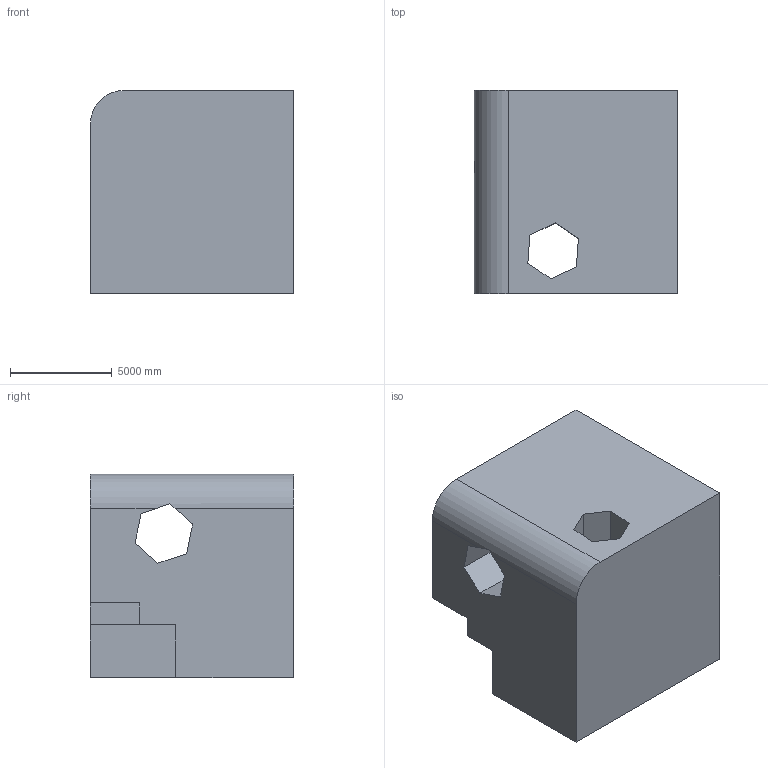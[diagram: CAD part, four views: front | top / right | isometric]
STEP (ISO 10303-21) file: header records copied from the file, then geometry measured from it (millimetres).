
FILE_DESCRIPTION (( 'STEP AP203' ), '1' );
FILE_NAME ('460.STEP', '2022-07-29T11:22:18', ( 'user' ), ( '' ), 'SwSTEP 2.0', 'SolidWorks 2021', '' );
FILE_SCHEMA (( 'CONFIG_CONTROL_DESIGN' ));
Length unit declared in the file: centimetre
Products named in the file (1): 460
Bounding box: 10000 x 10000 x 10000 mm (x, y, z)
Volume: 847393563423.6 mm3; surface area: 742650213.7 mm2
Topology: 1 solids, 1 shells, 25 faces, 72 edges, 48 vertices
Faces by surface type: plane 24, cylinder 1
Entity records: 893 total; most frequent: CARTESIAN_POINT 152, ORIENTED_EDGE 144, DIRECTION 124, EDGE_CURVE 72, VECTOR 68, LINE 68, VERTEX_POINT 48, AXIS2_PLACEMENT_3D 28
